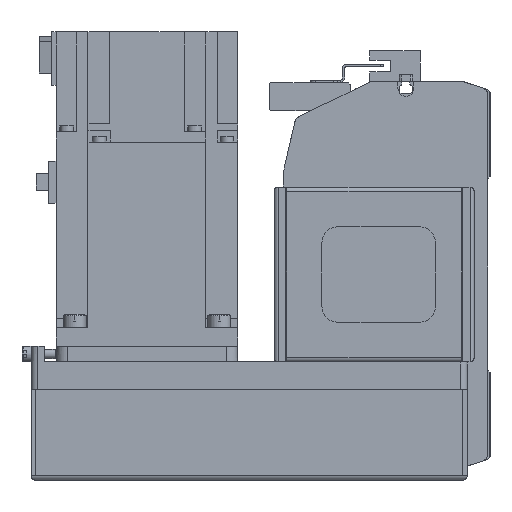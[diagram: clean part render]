
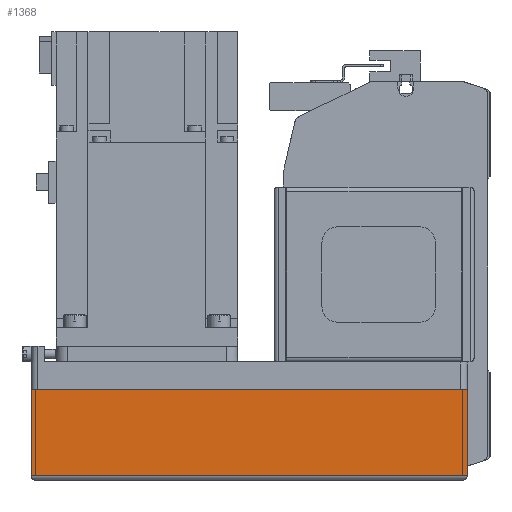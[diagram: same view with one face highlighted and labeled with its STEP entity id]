
A CAD part, left-side view. The second image highlights one B-rep face of the part: STEP entity #1368.
In plain terms, the highlighted planar face has unit normal (-1, 0, 0) as drawn and (0, -1, 0) by its records, which use the part's own axes.
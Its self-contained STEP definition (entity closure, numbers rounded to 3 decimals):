
#1368 = ADVANCED_FACE( '', ( #3494 ), #3495, .T. );
#3494 = FACE_OUTER_BOUND( '', #6616, .T. );
#3495 = PLANE( '', #6617 );
#6616 = EDGE_LOOP( '', ( #10482, #10483, #10484, #10485 ) );
#6617 = AXIS2_PLACEMENT_3D( '', #10486, #10487, #10488 );
#10482 = ORIENTED_EDGE( '', *, *, #18120, .F. );
#10483 = ORIENTED_EDGE( '', *, *, #18686, .F. );
#10484 = ORIENTED_EDGE( '', *, *, #18687, .T. );
#10485 = ORIENTED_EDGE( '', *, *, #18688, .T. );
#10486 = CARTESIAN_POINT( '', ( -192., -40., -12.1 ) );
#10487 = DIRECTION( '', ( 0., -1., 0. ) );
#10488 = DIRECTION( '', ( 0., 0., -1. ) );
#18120 = EDGE_CURVE( '', #21607, #21608, #21609, .T. );
#18686 = EDGE_CURVE( '', #22612, #21607, #22613, .T. );
#18687 = EDGE_CURVE( '', #22612, #22614, #22615, .T. );
#18688 = EDGE_CURVE( '', #22614, #21608, #22616, .T. );
#21607 = VERTEX_POINT( '', #26722 );
#21608 = VERTEX_POINT( '', #26723 );
#21609 = LINE( '', #26724, #26725 );
#22612 = VERTEX_POINT( '', #28120 );
#22613 = LINE( '', #28121, #28122 );
#22614 = VERTEX_POINT( '', #28123 );
#22615 = LINE( '', #28124, #28125 );
#22616 = LINE( '', #28126, #28127 );
#26722 = CARTESIAN_POINT( '', ( 0., -40., -12.1 ) );
#26723 = CARTESIAN_POINT( '', ( 0., -40., -50. ) );
#26724 = CARTESIAN_POINT( '', ( 0., -40., -12.1 ) );
#26725 = VECTOR( '', #33616, 1000. );
#28120 = CARTESIAN_POINT( '', ( -192., -40., -12.1 ) );
#28121 = CARTESIAN_POINT( '', ( -192., -40., -12.1 ) );
#28122 = VECTOR( '', #34373, 1000. );
#28123 = CARTESIAN_POINT( '', ( -192., -40., -50. ) );
#28124 = CARTESIAN_POINT( '', ( -192., -40., -12.1 ) );
#28125 = VECTOR( '', #34374, 1000. );
#28126 = CARTESIAN_POINT( '', ( -192., -40., -50. ) );
#28127 = VECTOR( '', #34375, 1000. );
#33616 = DIRECTION( '', ( 0., 0., -1. ) );
#34373 = DIRECTION( '', ( 1., 0., 0. ) );
#34374 = DIRECTION( '', ( 0., 0., -1. ) );
#34375 = DIRECTION( '', ( 1., 0., 0. ) );
